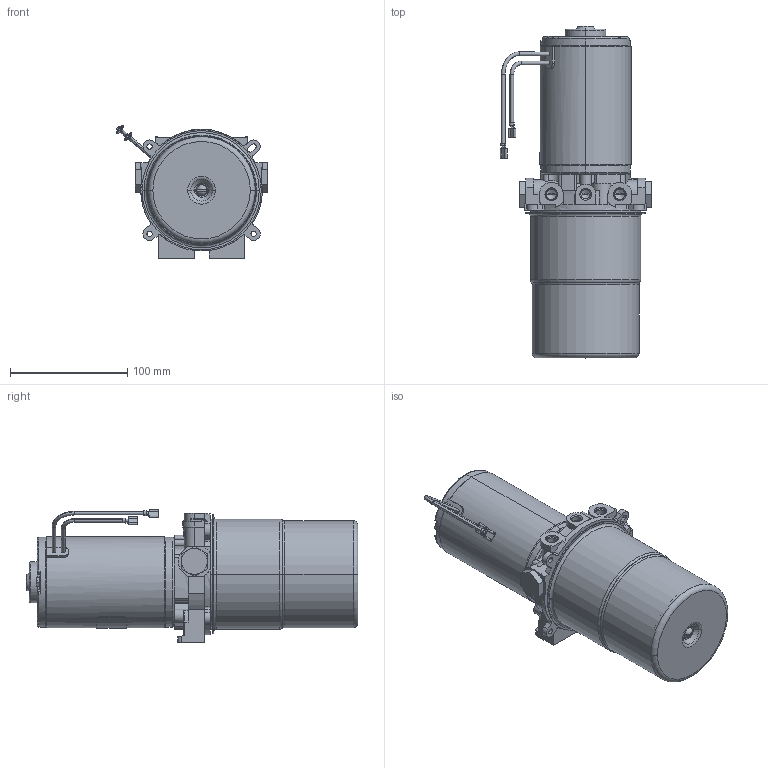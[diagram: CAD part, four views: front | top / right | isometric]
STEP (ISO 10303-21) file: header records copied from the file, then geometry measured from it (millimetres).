
FILE_DESCRIPTION((''),'2;1');
FILE_NAME('108-AE-BE-B_ASM','2009-06-16T',('dctmp01'),('OILDYNE'),'PRO/ENGINEER BY PARAMETRIC TECHNOLOGY CORPORATION, 2005380','PRO/ENGINEER BY PARAMETRIC TECHNOLOGY CORPORATION, 2005380','');
FILE_SCHEMA(('CONFIG_CONTROL_DESIGN'));
Length unit declared in the file: inch
Products named in the file (1): 108-AE-BE-B_ASM
Bounding box: 129.37 x 282.88 x 113.32 mm (x, y, z)
Volume: 627962.4 mm3; surface area: 184631 mm2
Topology: 7 solids, 8 shells, 792 faces, 2026 edges, 1285 vertices
Faces by surface type: plane 337, cylinder 292, cone 104, torus 56, sphere 2, bspline 1
Entity records: 24542 total; most frequent: CARTESIAN_POINT 4986, DIRECTION 4208, ORIENTED_EDGE 4024, EDGE_CURVE 2014, AXIS2_PLACEMENT_3D 1566, VERTEX_POINT 1285, VECTOR 1076, LINE 1076
